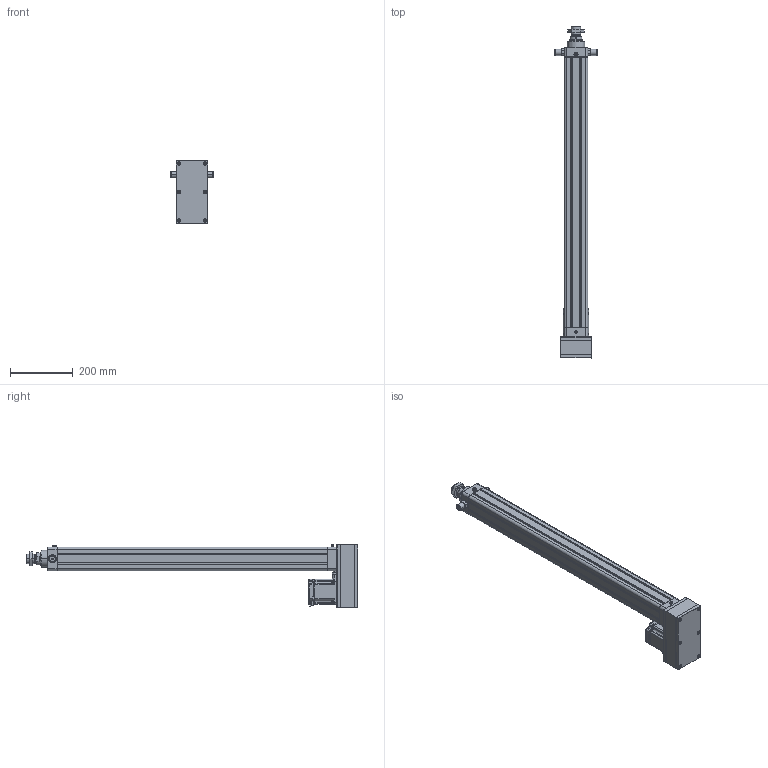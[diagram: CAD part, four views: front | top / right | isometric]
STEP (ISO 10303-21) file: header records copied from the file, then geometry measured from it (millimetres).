
FILE_DESCRIPTION((''),'2;1');
FILE_NAME('HE63-D-100-X1_ASM','2020-05-15T',('ASUS20200'),(''),'CREO PARAMETRIC BY PTC INC, 2014190','CREO PARAMETRIC BY PTC INC, 2014190','');
FILE_SCHEMA(('CONFIG_CONTROL_DESIGN'));
Length unit declared in the file: millimetre
Products named in the file (24): HE63-D-P-001-X1; HE63-D-P-002-X1; HE63-D-P-003-X1; LGLM-M8-22; SLM-01; YZ-M6X1; JDB405030; HE63-P-010-X1-80N; _MHMF082L1A2; MHMF082L1A2M2_1_ASM; JX6X6X25; HE63-P-012-X1; HE63-P-013-X1; M6X60; JM-M8; LM-M8-15; LM-M8X1-25; HE63-D-P-005-X1; HE63-D-P-004-X1; HE63-D-P-008-X1; TD-6; M6X25; HE63-TC; HE63-D-100-X1_ASM
Assembly tree (42 placements, depth 3):
  HE63-D-100-X1_ASM
    HE63-D-P-001-X1
    HE63-D-P-002-X1
    HE63-D-P-003-X1
    LGLM-M8-22  x8
    SLM-01
    YZ-M6X1
    JDB405030
    HE63-P-010-X1-80N
    MHMF082L1A2M2_1_ASM
      _MHMF082L1A2
    JX6X6X25
    HE63-P-012-X1
    HE63-P-013-X1
    M6X60  x6
    JM-M8
    LM-M8-15
    LM-M8X1-25
    HE63-D-P-005-X1
    HE63-D-P-004-X1
    HE63-D-P-008-X1
    TD-6  x4
    M6X25  x4
    HE63-TC  x2
Bounding box: 135 x 1057 x 200.5 mm (x, y, z)
Volume: 3315739.1 mm3; surface area: 971458.8 mm2
Topology: 41 solids, 73 shells, 2189 faces, 5269 edges, 3258 vertices
Faces by surface type: plane 810, cylinder 685, cone 559, torus 102, sphere 30, bspline 3
Entity records: 51649 total; most frequent: CARTESIAN_POINT 10057, DIRECTION 9247, ORIENTED_EDGE 8082, EDGE_CURVE 4101, AXIS2_PLACEMENT_3D 3583, VERTEX_POINT 2552, VECTOR 2081, LINE 2081
